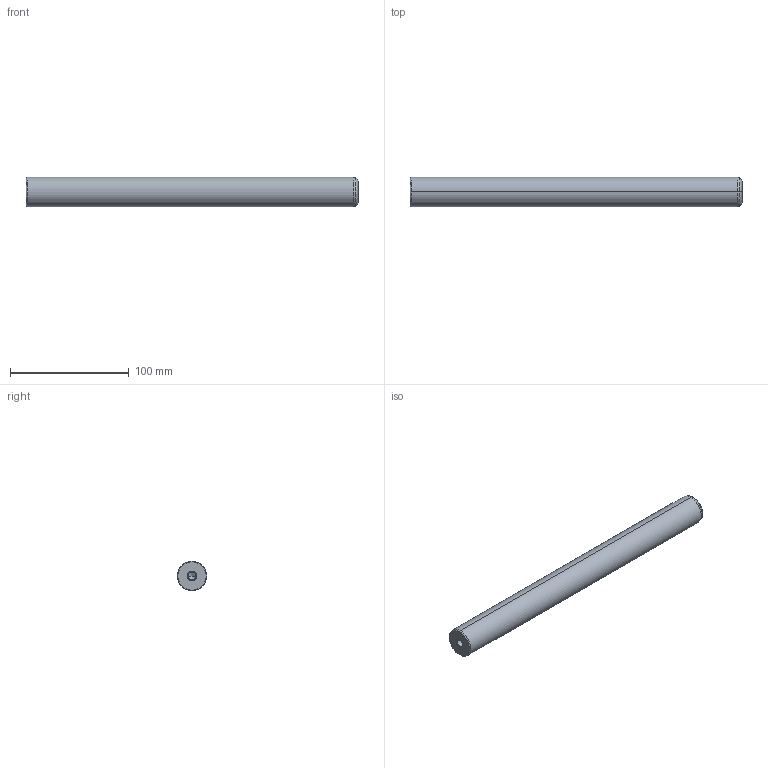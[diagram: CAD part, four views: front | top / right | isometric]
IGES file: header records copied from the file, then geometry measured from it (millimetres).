
Start section: START RECORD GO HERE.
Global section: file name: 720-25x280.igs; native system: DASSAULT SYSTEMES CATIA V5 R20 - www.3ds.com; preprocessor: CATIA Version 5 Release 20 ; author: Utente; organization: NB04-ASUS; date: 20210101.133934; units: millimetre
Bounding box: 280 x 25 x 25 mm (x, y, z)
Surface area: 23801.8 mm2 (no closed solid volume)
Topology: 0 solids, 0 shells, 22 faces, 108 edges, 104 vertices
Faces by surface type: revolution 20, plane 2
